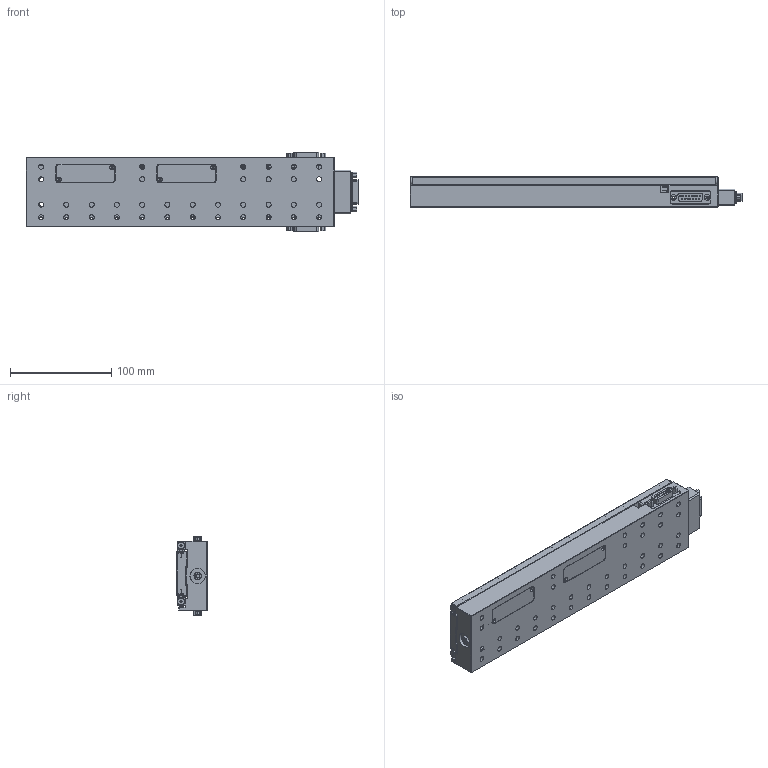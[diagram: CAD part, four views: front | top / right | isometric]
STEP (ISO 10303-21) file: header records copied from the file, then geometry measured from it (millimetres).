
FILE_DESCRIPTION (( 'STEP AP214' ), '1' );
FILE_NAME ('LS-200-YXXX (CATALOG MODEL).STEP', '2020-09-08T22:12:59', ( 'Matthew' ), ( 'Microsoft' ), 'SwSTEP 2.0', 'SolidWorks 2020', '' );
FILE_SCHEMA (( 'AUTOMOTIVE_DESIGN' ));
Length unit declared in the file: millimetre
Products named in the file (1): LS-200-YXXX (CATALOG MODEL)
Bounding box: 328.41 x 29.98 x 78.69 mm (x, y, z)
Surface area: 136841.6 mm2 (no closed solid volume)
Topology: 0 solids, 38 shells, 987 faces, 3218 edges, 2270 vertices
Faces by surface type: cylinder 524, plane 384, cone 71, torus 8
Entity records: 40130 total; most frequent: CARTESIAN_POINT 8746, DIRECTION 6397, ORIENTED_EDGE 5295, EDGE_CURVE 3218, AXIS2_PLACEMENT_3D 2355, VERTEX_POINT 2270, VECTOR 1687, LINE 1687
